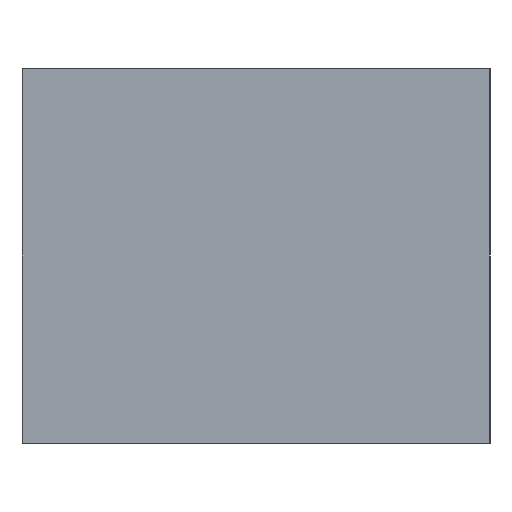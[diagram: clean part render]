
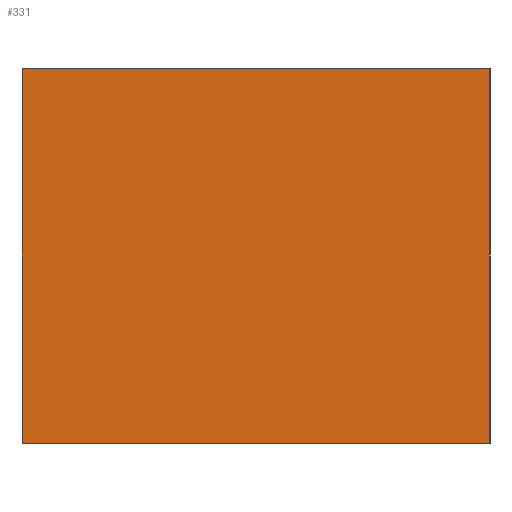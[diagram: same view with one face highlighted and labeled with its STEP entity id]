
A CAD part, left-side view. The second image highlights one B-rep face of the part: STEP entity #331.
In plain terms, the highlighted planar face has unit normal (-1, 0, 0).
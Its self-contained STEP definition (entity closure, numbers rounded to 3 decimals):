
#22 = VERTEX_POINT('',#23);
#23 = CARTESIAN_POINT('',(-160.,-177.,94.));
#32 = PLANE('',#33);
#33 = AXIS2_PLACEMENT_3D('',#34,#35,#36);
#34 = CARTESIAN_POINT('',(-160.,-177.,94.));
#35 = DIRECTION('',(0.,0.,-1.));
#36 = DIRECTION('',(1.,0.,0.));
#44 = PLANE('',#45);
#45 = AXIS2_PLACEMENT_3D('',#46,#47,#48);
#46 = CARTESIAN_POINT('',(-160.,-177.,94.));
#47 = DIRECTION('',(0.,1.,0.));
#48 = DIRECTION('',(1.,0.,0.));
#56 = EDGE_CURVE('',#22,#57,#59,.T.);
#57 = VERTEX_POINT('',#58);
#58 = CARTESIAN_POINT('',(-160.,-147.,94.));
#59 = SURFACE_CURVE('',#60,(#64,#71),.PCURVE_S1.);
#60 = LINE('',#61,#62);
#61 = CARTESIAN_POINT('',(-160.,-177.,94.));
#62 = VECTOR('',#63,1.);
#63 = DIRECTION('',(0.,1.,0.));
#64 = PCURVE('',#32,#65);
#65 = DEFINITIONAL_REPRESENTATION('',(#66),#70);
#66 = LINE('',#67,#68);
#67 = CARTESIAN_POINT('',(0.,0.));
#68 = VECTOR('',#69,1.);
#69 = DIRECTION('',(0.,-1.));
#70 = ( GEOMETRIC_REPRESENTATION_CONTEXT(2) 
PARAMETRIC_REPRESENTATION_CONTEXT() REPRESENTATION_CONTEXT('2D SPACE',''
  ) );
#71 = PCURVE('',#72,#77);
#72 = PLANE('',#73);
#73 = AXIS2_PLACEMENT_3D('',#74,#75,#76);
#74 = CARTESIAN_POINT('',(-160.,-177.,94.));
#75 = DIRECTION('',(1.,0.,0.));
#76 = DIRECTION('',(0.,0.,-1.));
#77 = DEFINITIONAL_REPRESENTATION('',(#78),#82);
#78 = LINE('',#79,#80);
#79 = CARTESIAN_POINT('',(0.,0.));
#80 = VECTOR('',#81,1.);
#81 = DIRECTION('',(0.,1.));
#82 = ( GEOMETRIC_REPRESENTATION_CONTEXT(2) 
PARAMETRIC_REPRESENTATION_CONTEXT() REPRESENTATION_CONTEXT('2D SPACE',''
  ) );
#100 = PLANE('',#101);
#101 = AXIS2_PLACEMENT_3D('',#102,#103,#104);
#102 = CARTESIAN_POINT('',(-160.,-147.,94.));
#103 = DIRECTION('',(0.,1.,0.));
#104 = DIRECTION('',(1.,0.,0.));
#142 = VERTEX_POINT('',#143);
#143 = CARTESIAN_POINT('',(-160.,-177.,70.));
#152 = PLANE('',#153);
#153 = AXIS2_PLACEMENT_3D('',#154,#155,#156);
#154 = CARTESIAN_POINT('',(-160.,-177.,70.));
#155 = DIRECTION('',(0.,0.,-1.));
#156 = DIRECTION('',(1.,0.,0.));
#171 = EDGE_CURVE('',#142,#172,#174,.T.);
#172 = VERTEX_POINT('',#173);
#173 = CARTESIAN_POINT('',(-160.,-147.,70.));
#174 = SURFACE_CURVE('',#175,(#179,#186),.PCURVE_S1.);
#175 = LINE('',#176,#177);
#176 = CARTESIAN_POINT('',(-160.,-177.,70.));
#177 = VECTOR('',#178,1.);
#178 = DIRECTION('',(0.,1.,0.));
#179 = PCURVE('',#152,#180);
#180 = DEFINITIONAL_REPRESENTATION('',(#181),#185);
#181 = LINE('',#182,#183);
#182 = CARTESIAN_POINT('',(0.,0.));
#183 = VECTOR('',#184,1.);
#184 = DIRECTION('',(0.,-1.));
#185 = ( GEOMETRIC_REPRESENTATION_CONTEXT(2) 
PARAMETRIC_REPRESENTATION_CONTEXT() REPRESENTATION_CONTEXT('2D SPACE',''
  ) );
#186 = PCURVE('',#72,#187);
#187 = DEFINITIONAL_REPRESENTATION('',(#188),#192);
#188 = LINE('',#189,#190);
#189 = CARTESIAN_POINT('',(24.,0.));
#190 = VECTOR('',#191,1.);
#191 = DIRECTION('',(0.,1.));
#192 = ( GEOMETRIC_REPRESENTATION_CONTEXT(2) 
PARAMETRIC_REPRESENTATION_CONTEXT() REPRESENTATION_CONTEXT('2D SPACE',''
  ) );
#241 = EDGE_CURVE('',#22,#142,#242,.T.);
#242 = SURFACE_CURVE('',#243,(#247,#254),.PCURVE_S1.);
#243 = LINE('',#244,#245);
#244 = CARTESIAN_POINT('',(-160.,-177.,94.));
#245 = VECTOR('',#246,1.);
#246 = DIRECTION('',(0.,0.,-1.));
#247 = PCURVE('',#44,#248);
#248 = DEFINITIONAL_REPRESENTATION('',(#249),#253);
#249 = LINE('',#250,#251);
#250 = CARTESIAN_POINT('',(0.,0.));
#251 = VECTOR('',#252,1.);
#252 = DIRECTION('',(0.,1.));
#253 = ( GEOMETRIC_REPRESENTATION_CONTEXT(2) 
PARAMETRIC_REPRESENTATION_CONTEXT() REPRESENTATION_CONTEXT('2D SPACE',''
  ) );
#254 = PCURVE('',#72,#255);
#255 = DEFINITIONAL_REPRESENTATION('',(#256),#260);
#256 = LINE('',#257,#258);
#257 = CARTESIAN_POINT('',(0.,0.));
#258 = VECTOR('',#259,1.);
#259 = DIRECTION('',(1.,0.));
#260 = ( GEOMETRIC_REPRESENTATION_CONTEXT(2) 
PARAMETRIC_REPRESENTATION_CONTEXT() REPRESENTATION_CONTEXT('2D SPACE',''
  ) );
#288 = EDGE_CURVE('',#57,#172,#289,.T.);
#289 = SURFACE_CURVE('',#290,(#294,#301),.PCURVE_S1.);
#290 = LINE('',#291,#292);
#291 = CARTESIAN_POINT('',(-160.,-147.,94.));
#292 = VECTOR('',#293,1.);
#293 = DIRECTION('',(0.,0.,-1.));
#294 = PCURVE('',#100,#295);
#295 = DEFINITIONAL_REPRESENTATION('',(#296),#300);
#296 = LINE('',#297,#298);
#297 = CARTESIAN_POINT('',(0.,0.));
#298 = VECTOR('',#299,1.);
#299 = DIRECTION('',(0.,1.));
#300 = ( GEOMETRIC_REPRESENTATION_CONTEXT(2) 
PARAMETRIC_REPRESENTATION_CONTEXT() REPRESENTATION_CONTEXT('2D SPACE',''
  ) );
#301 = PCURVE('',#72,#302);
#302 = DEFINITIONAL_REPRESENTATION('',(#303),#307);
#303 = LINE('',#304,#305);
#304 = CARTESIAN_POINT('',(0.,30.));
#305 = VECTOR('',#306,1.);
#306 = DIRECTION('',(1.,0.));
#307 = ( GEOMETRIC_REPRESENTATION_CONTEXT(2) 
PARAMETRIC_REPRESENTATION_CONTEXT() REPRESENTATION_CONTEXT('2D SPACE',''
  ) );
#331 = ADVANCED_FACE('',(#332),#72,.F.);
#332 = FACE_BOUND('',#333,.F.);
#333 = EDGE_LOOP('',(#334,#335,#336,#337));
#334 = ORIENTED_EDGE('',*,*,#56,.F.);
#335 = ORIENTED_EDGE('',*,*,#241,.T.);
#336 = ORIENTED_EDGE('',*,*,#171,.T.);
#337 = ORIENTED_EDGE('',*,*,#288,.F.);
